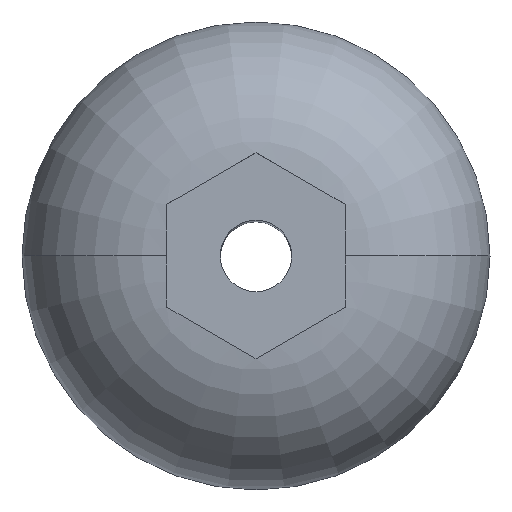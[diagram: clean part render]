
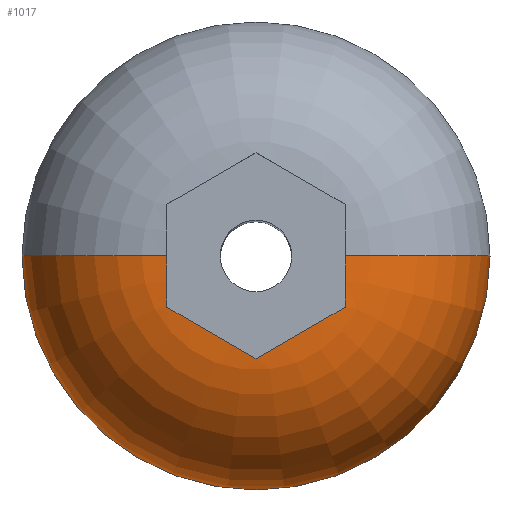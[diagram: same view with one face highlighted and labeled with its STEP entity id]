
A CAD part, top view. The second image highlights one B-rep face of the part: STEP entity #1017.
In plain terms, the highlighted toroidal (fillet/blend) face has major radius 1.95 mm and minor radius 3.3 mm.
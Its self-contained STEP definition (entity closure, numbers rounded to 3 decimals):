
#39 = CARTESIAN_POINT ( 'NONE',  ( 0.333, -2.117, 3.301 ) ) ;
#61 = CARTESIAN_POINT ( 'NONE',  ( 1.95, 0., 0. ) ) ;
#70 = DIRECTION ( 'NONE',  ( 0., -1., 0. ) ) ;
#85 = EDGE_CURVE ( 'NONE', #1068, #1725, #2266, .T. ) ;
#94 = CARTESIAN_POINT ( 'NONE',  ( 2., -0.963, 3.291 ) ) ;
#101 = EDGE_CURVE ( 'NONE', #1799, #2105, #1144, .T. ) ;
#104 = ORIENTED_EDGE ( 'NONE', *, *, #2401, .T. ) ;
#112 = CARTESIAN_POINT ( 'NONE',  ( -2., -0.194, 3.3 ) ) ;
#117 = CARTESIAN_POINT ( 'NONE',  ( -2., 0., 3.3 ) ) ;
#200 = DIRECTION ( 'NONE',  ( 1., 0., 0. ) ) ;
#365 = CARTESIAN_POINT ( 'NONE',  ( 2., -1.155, 3.28 ) ) ;
#367 = CARTESIAN_POINT ( 'NONE',  ( 2., -0.193, 3.3 ) ) ;
#376 = CARTESIAN_POINT ( 'NONE',  ( -1., -1.732, 3.298 ) ) ;
#513 = ORIENTED_EDGE ( 'NONE', *, *, #85, .F. ) ;
#653 = EDGE_CURVE ( 'NONE', #666, #1799, #1501, .T. ) ;
#666 = VERTEX_POINT ( 'NONE', #365 ) ;
#736 = CARTESIAN_POINT ( 'NONE',  ( 2., 0., 3.3 ) ) ;
#802 = CARTESIAN_POINT ( 'NONE',  ( 2., -1.155, 3.28 ) ) ;
#843 = CARTESIAN_POINT ( 'NONE',  ( -2., -1.155, 3.28 ) ) ;
#850 = AXIS2_PLACEMENT_3D ( 'NONE', #1127, #918, #200 ) ;
#870 = CARTESIAN_POINT ( 'NONE',  ( 2., -0.385, 3.3 ) ) ;
#905 = CARTESIAN_POINT ( 'NONE',  ( 0., 0., 0. ) ) ;
#918 = DIRECTION ( 'NONE',  ( 0., 0., 1. ) ) ;
#940 = B_SPLINE_CURVE_WITH_KNOTS ( 'NONE', 3,
 ( #736, #367, #870, #2024, #94, #1405 ),
 .UNSPECIFIED., .F., .F.,
 ( 4, 2, 4 ),
 ( 0., 0.001, 0.001 ),
 .UNSPECIFIED. ) ;
#956 = CARTESIAN_POINT ( 'NONE',  ( 0., -2.309, 3.28 ) ) ;
#990 = DIRECTION ( 'NONE',  ( 0., 0., -1. ) ) ;
#1015 = CARTESIAN_POINT ( 'NONE',  ( -2., -0.385, 3.3 ) ) ;
#1017 = ADVANCED_FACE ( 'NONE', ( #2206 ), #2296, .T. ) ;
#1027 = CARTESIAN_POINT ( 'NONE',  ( 0., -2.309, 3.28 ) ) ;
#1048 = CIRCLE ( 'NONE', #850, 5.25 ) ;
#1059 = EDGE_CURVE ( 'NONE', #1191, #666, #940, .T. ) ;
#1068 = VERTEX_POINT ( 'NONE', #1756 ) ;
#1084 = EDGE_CURVE ( 'NONE', #2105, #1725, #1708, .T. ) ;
#1095 = DIRECTION ( 'NONE',  ( 0., 0., 1. ) ) ;
#1127 = CARTESIAN_POINT ( 'NONE',  ( 0., 0., 0. ) ) ;
#1144 = B_SPLINE_CURVE_WITH_KNOTS ( 'NONE', 3,
 ( #956, #2245, #376, #1678, #2267 ),
 .UNSPECIFIED., .F., .F.,
 ( 4, 1, 4 ),
 ( 0., 0.001, 0.002 ),
 .UNSPECIFIED. ) ;
#1166 = CARTESIAN_POINT ( 'NONE',  ( 1.667, -1.347, 3.301 ) ) ;
#1178 = AXIS2_PLACEMENT_3D ( 'NONE', #1511, #1284, #2054 ) ;
#1191 = VERTEX_POINT ( 'NONE', #2153 ) ;
#1244 = VERTEX_POINT ( 'NONE', #1425 ) ;
#1284 = DIRECTION ( 'NONE',  ( 0., 1., 0. ) ) ;
#1314 = AXIS2_PLACEMENT_3D ( 'NONE', #61, #70, #990 ) ;
#1351 = CARTESIAN_POINT ( 'NONE',  ( 0., -2.309, 3.28 ) ) ;
#1405 = CARTESIAN_POINT ( 'NONE',  ( 2., -1.155, 3.28 ) ) ;
#1425 = CARTESIAN_POINT ( 'NONE',  ( 5.25, 0., 0. ) ) ;
#1466 = ORIENTED_EDGE ( 'NONE', *, *, #653, .T. ) ;
#1501 = B_SPLINE_CURVE_WITH_KNOTS ( 'NONE', 3,
 ( #802, #1166, #1538, #39, #1351 ),
 .UNSPECIFIED., .F., .F.,
 ( 4, 1, 4 ),
 ( 0., 0.001, 0.002 ),
 .UNSPECIFIED. ) ;
#1511 = CARTESIAN_POINT ( 'NONE',  ( -1.95, 0., 0. ) ) ;
#1538 = CARTESIAN_POINT ( 'NONE',  ( 1., -1.732, 3.298 ) ) ;
#1549 = CARTESIAN_POINT ( 'NONE',  ( -2., -1.155, 3.28 ) ) ;
#1573 = CARTESIAN_POINT ( 'NONE',  ( -2., 0., 3.3 ) ) ;
#1600 = EDGE_LOOP ( 'NONE', ( #513, #104, #1807, #2333, #1466, #1677, #1950 ) ) ;
#1677 = ORIENTED_EDGE ( 'NONE', *, *, #101, .T. ) ;
#1678 = CARTESIAN_POINT ( 'NONE',  ( -1.667, -1.347, 3.301 ) ) ;
#1708 = B_SPLINE_CURVE_WITH_KNOTS ( 'NONE', 3,
 ( #843, #1779, #2345, #1015, #112, #1573 ),
 .UNSPECIFIED., .F., .F.,
 ( 4, 2, 4 ),
 ( 0.026, 0.026, 0.027 ),
 .UNSPECIFIED. ) ;
#1725 = VERTEX_POINT ( 'NONE', #117 ) ;
#1756 = CARTESIAN_POINT ( 'NONE',  ( -5.25, 0., 0. ) ) ;
#1779 = CARTESIAN_POINT ( 'NONE',  ( -2., -0.963, 3.291 ) ) ;
#1799 = VERTEX_POINT ( 'NONE', #1027 ) ;
#1807 = ORIENTED_EDGE ( 'NONE', *, *, #2001, .T. ) ;
#1950 = ORIENTED_EDGE ( 'NONE', *, *, #1084, .T. ) ;
#2001 = EDGE_CURVE ( 'NONE', #1244, #1191, #2385, .T. ) ;
#2024 = CARTESIAN_POINT ( 'NONE',  ( 2., -0.77, 3.295 ) ) ;
#2054 = DIRECTION ( 'NONE',  ( -1., 0., 0. ) ) ;
#2105 = VERTEX_POINT ( 'NONE', #1549 ) ;
#2153 = CARTESIAN_POINT ( 'NONE',  ( 2., 0., 3.3 ) ) ;
#2206 = FACE_OUTER_BOUND ( 'NONE', #1600, .T. ) ;
#2245 = CARTESIAN_POINT ( 'NONE',  ( -0.333, -2.117, 3.301 ) ) ;
#2258 = AXIS2_PLACEMENT_3D ( 'NONE', #905, #1095, #2417 ) ;
#2266 = CIRCLE ( 'NONE', #1178, 3.3 ) ;
#2267 = CARTESIAN_POINT ( 'NONE',  ( -2., -1.155, 3.28 ) ) ;
#2296 = TOROIDAL_SURFACE ( 'NONE', #2258, 1.95, 3.3 ) ;
#2333 = ORIENTED_EDGE ( 'NONE', *, *, #1059, .T. ) ;
#2345 = CARTESIAN_POINT ( 'NONE',  ( -2., -0.77, 3.295 ) ) ;
#2385 = CIRCLE ( 'NONE', #1314, 3.3 ) ;
#2401 = EDGE_CURVE ( 'NONE', #1068, #1244, #1048, .T. ) ;
#2417 = DIRECTION ( 'NONE',  ( 1., 0., 0. ) ) ;
